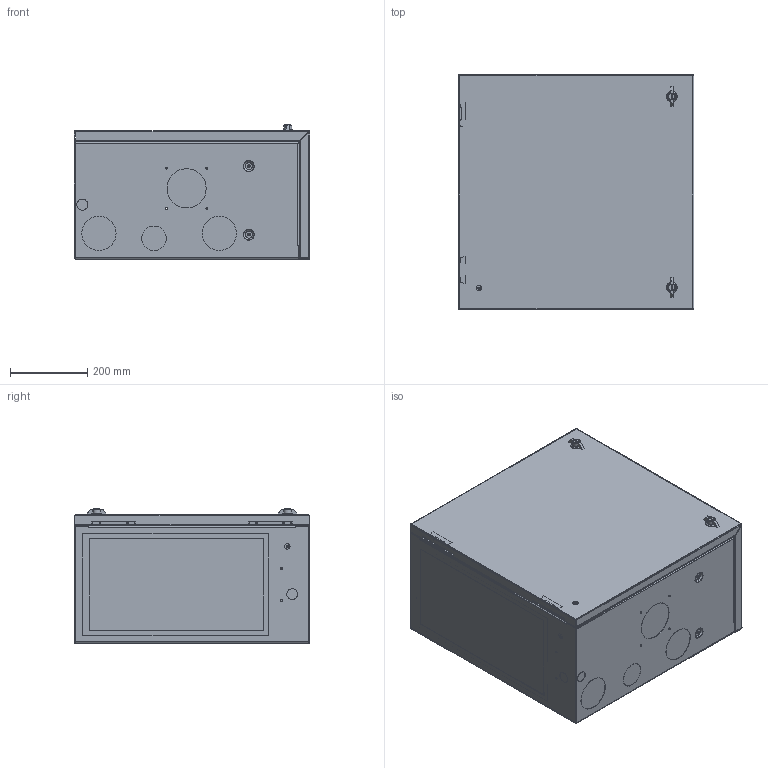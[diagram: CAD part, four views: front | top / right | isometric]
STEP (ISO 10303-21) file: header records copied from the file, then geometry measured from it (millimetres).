
FILE_DESCRIPTION (( 'STEP AP203' ), '1' );
FILE_NAME ('dbl242412g.STEP', '2008-06-18T19:27:26', ( '' ), ( '' ), 'SwSTEP 2.0', 'SolidWorks 2007', '' );
FILE_SCHEMA (( 'CONFIG_CONTROL_DESIGN' ));
Products named in the file (18): 60127214_proline_hng_Assy_LH Bottom mt pull pin up; 87790201_hinge_body_proline; 87931527_87931527; 87931368_SLEEVE; Perf_19x10.37_87787069; dbl242412g; WmtBodyLBox_24x24x12; Body_LBox_24x24x12; RackAngleLBox; SupportBrktLBox_24in; WmtDoorLBox_24x24x12; DoorLBox_24x24x12<As Machined>; hinge_dr_proline; 60100041_60100041; assy_latch; knob_wing_emka; latch_body; cam
Assembly tree (23 placements, depth 4):
  dbl242412g
    RackAngleLBox  x2
    60127214_proline_hng_Assy_LH Bottom mt pull pin up  x2
      87790201_hinge_body_proline
    WmtDoorLBox_24x24x12
      assy_latch  x2
        knob_wing_emka
        latch_body
        cam
      hinge_dr_proline  x2
      DoorLBox_24x24x12<As Machined>
      60100041_60100041
        87931527_87931527
        87931368_SLEEVE
      Perf_19x10.37_87787069
    SupportBrktLBox_24in
    WmtBodyLBox_24x24x12
      60100041_60100041
        87931527_87931527
        87931368_SLEEVE
      Body_LBox_24x24x12
      Perf_19x10.37_87787069
Bounding box: 611.46 x 609.94 x 348.42 mm (x, y, z)
Volume: 3135623.4 mm3; surface area: 3683234.6 mm2
Topology: 25 solids, 27 shells, 1745 faces, 4430 edges, 2794 vertices
Faces by surface type: plane 985, cylinder 570, bspline 78, cone 60, torus 44, sphere 8
Entity records: 43116 total; most frequent: CARTESIAN_POINT 9602, DIRECTION 6543, ORIENTED_EDGE 6456, EDGE_CURVE 3234, AXIS2_PLACEMENT_3D 2216, VECTOR 2111, LINE 2111, VERTEX_POINT 2038
